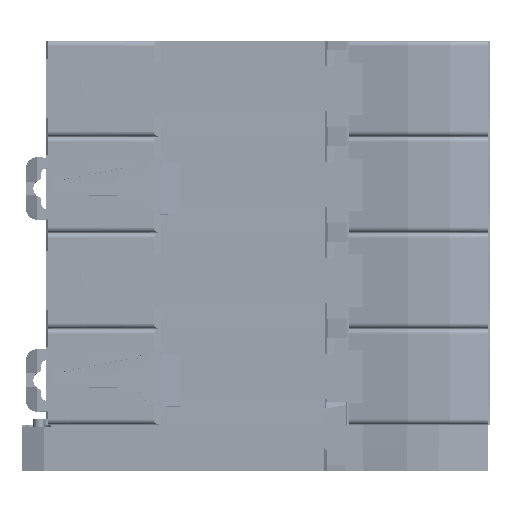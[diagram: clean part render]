
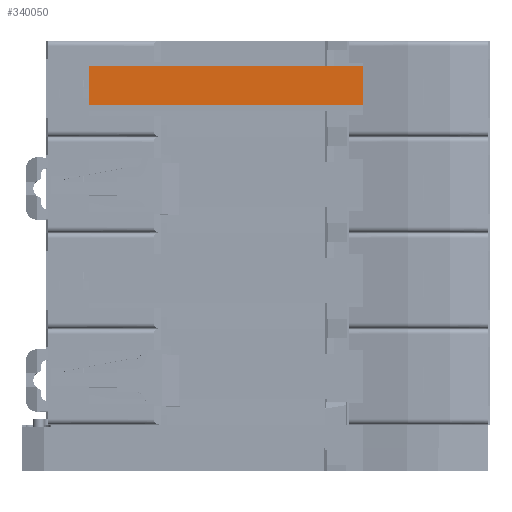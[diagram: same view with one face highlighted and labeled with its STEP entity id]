
A CAD part, front view. The second image highlights one B-rep face of the part: STEP entity #340050.
In plain terms, the highlighted planar face has unit normal (0, -1, 0).
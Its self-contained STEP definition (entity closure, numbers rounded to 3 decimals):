
#2741 = EDGE_CURVE ( 'NONE', #222429, #373805, #339090, .T. ) ;
#4227 = VERTEX_POINT ( 'NONE', #230259 ) ;
#11834 = DIRECTION ( 'NONE',  ( 0., 0., -1. ) ) ;
#20577 = DIRECTION ( 'NONE',  ( -1., 0., 0. ) ) ;
#24583 = ORIENTED_EDGE ( 'NONE', *, *, #234657, .T. ) ;
#27299 = DIRECTION ( 'NONE',  ( 0., 0., -1. ) ) ;
#37551 = VECTOR ( 'NONE', #20577, 1000. ) ;
#61068 = EDGE_CURVE ( 'NONE', #278316, #4227, #445966, .T. ) ;
#61533 = CARTESIAN_POINT ( 'NONE',  ( -77.803, -21.213, 6.139 ) ) ;
#64427 = DIRECTION ( 'NONE',  ( -1., 0., 0. ) ) ;
#68541 = CARTESIAN_POINT ( 'NONE',  ( 54.287, -21.213, 27.736 ) ) ;
#81318 = DIRECTION ( 'NONE',  ( 1., 0., 0. ) ) ;
#117216 = ORIENTED_EDGE ( 'NONE', *, *, #125604, .F. ) ;
#121147 = EDGE_CURVE ( 'NONE', #278316, #373805, #159533, .T. ) ;
#125604 = EDGE_CURVE ( 'NONE', #266613, #222429, #233206, .T. ) ;
#125927 = CARTESIAN_POINT ( 'NONE',  ( 54.287, -21.213, 6.139 ) ) ;
#129000 = ORIENTED_EDGE ( 'NONE', *, *, #2741, .F. ) ;
#134383 = VECTOR ( 'NONE', #305924, 1000. ) ;
#135671 = ORIENTED_EDGE ( 'NONE', *, *, #61068, .F. ) ;
#137047 = CARTESIAN_POINT ( 'NONE',  ( -34.483, -21.213, 6.139 ) ) ;
#145267 = VECTOR ( 'NONE', #81318, 1000. ) ;
#146345 = LINE ( 'NONE', #510661, #37551 ) ;
#159533 = LINE ( 'NONE', #401016, #319117 ) ;
#165297 = AXIS2_PLACEMENT_3D ( 'NONE', #68541, #270572, #27299 ) ;
#198938 = ORIENTED_EDGE ( 'NONE', *, *, #121147, .T. ) ;
#222429 = VERTEX_POINT ( 'NONE', #523927 ) ;
#230026 = VERTEX_POINT ( 'NONE', #503315 ) ;
#230259 = CARTESIAN_POINT ( 'NONE',  ( -30.421, -21.213, 6.139 ) ) ;
#233206 = LINE ( 'NONE', #470372, #418430 ) ;
#234657 = EDGE_CURVE ( 'NONE', #230026, #4227, #146345, .T. ) ;
#246092 = VECTOR ( 'NONE', #11834, 1000. ) ;
#262080 = CARTESIAN_POINT ( 'NONE',  ( -27.568, -21.213, 27.736 ) ) ;
#264384 = CARTESIAN_POINT ( 'NONE',  ( -27.568, -21.213, -0.946 ) ) ;
#266613 = VERTEX_POINT ( 'NONE', #264384 ) ;
#270572 = DIRECTION ( 'NONE',  ( 0., 1., 0. ) ) ;
#275483 = EDGE_LOOP ( 'NONE', ( #129000, #117216, #491429, #24583, #135671, #198938 ) ) ;
#278316 = VERTEX_POINT ( 'NONE', #137047 ) ;
#305924 = DIRECTION ( 'NONE',  ( -0.009, 0., 1. ) ) ;
#319117 = VECTOR ( 'NONE', #440411, 1000. ) ;
#339090 = LINE ( 'NONE', #511616, #134383 ) ;
#340050 = ADVANCED_FACE ( 'NONE', ( #346588 ), #431510, .F. ) ;
#346588 = FACE_OUTER_BOUND ( 'NONE', #275483, .T. ) ;
#373805 = VERTEX_POINT ( 'NONE', #61533 ) ;
#401016 = CARTESIAN_POINT ( 'NONE',  ( -45.018, -21.213, 6.139 ) ) ;
#418430 = VECTOR ( 'NONE', #64427, 1000. ) ;
#431510 = PLANE ( 'NONE',  #165297 ) ;
#440411 = DIRECTION ( 'NONE',  ( -1., 0., 0. ) ) ;
#445966 = LINE ( 'NONE', #125927, #145267 ) ;
#470372 = CARTESIAN_POINT ( 'NONE',  ( 54.287, -21.213, -0.946 ) ) ;
#491429 = ORIENTED_EDGE ( 'NONE', *, *, #494257, .F. ) ;
#494257 = EDGE_CURVE ( 'NONE', #230026, #266613, #502220, .T. ) ;
#502220 = LINE ( 'NONE', #262080, #246092 ) ;
#503315 = CARTESIAN_POINT ( 'NONE',  ( -27.568, -21.213, 6.139 ) ) ;
#510661 = CARTESIAN_POINT ( 'NONE',  ( -45.018, -21.213, 6.139 ) ) ;
#511616 = CARTESIAN_POINT ( 'NONE',  ( -77.741, -21.213, -0.946 ) ) ;
#523927 = CARTESIAN_POINT ( 'NONE',  ( -77.741, -21.213, -0.946 ) ) ;
